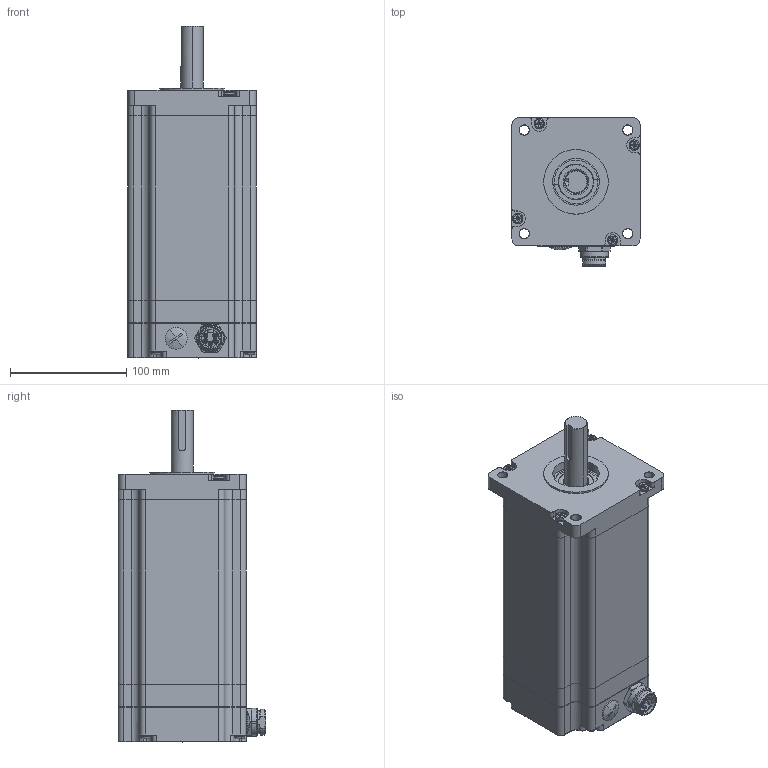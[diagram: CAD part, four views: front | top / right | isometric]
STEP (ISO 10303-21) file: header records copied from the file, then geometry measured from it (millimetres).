
FILE_DESCRIPTION (( 'STEP AP214' ), '1' );
FILE_NAME ('M110SH201-T-C.STEP', '2025-05-24T08:54:36', ( '' ), ( '' ), 'SwSTEP 2.0', 'SolidWorks 2019', '' );
FILE_SCHEMA (( 'AUTOMOTIVE_DESIGN' ));
Length unit declared in the file: millimetre
Products named in the file (1): M110SH201-T-C
Bounding box: 110 x 127 x 285 mm (x, y, z)
Volume: 979165.1 mm3; surface area: 330153.4 mm2
Topology: 45 solids, 45 shells, 1552 faces, 4006 edges, 2574 vertices
Faces by surface type: plane 595, cylinder 439, bspline 297, cone 131, torus 90
Entity records: 76631 total; most frequent: CARTESIAN_POINT 22835, ORIENTED_EDGE 7868, DIRECTION 6973, EDGE_CURVE 3934, AXIS2_PLACEMENT_3D 2584, VERTEX_POINT 2574, VECTOR 1805, LINE 1805
